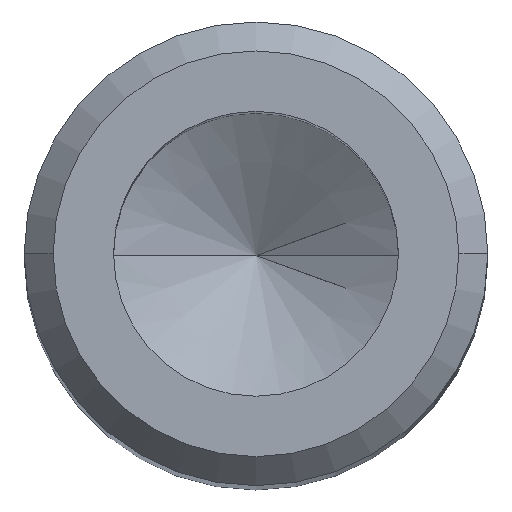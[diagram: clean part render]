
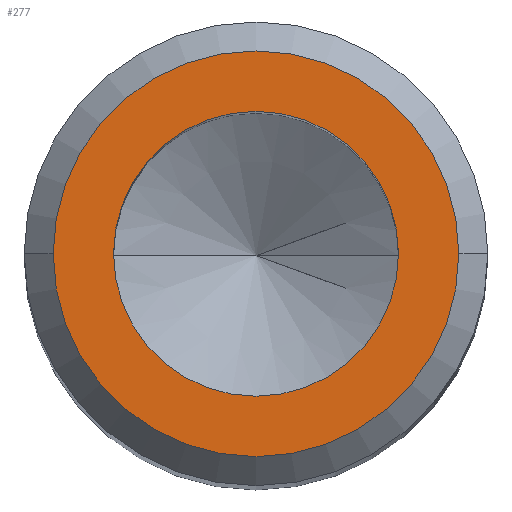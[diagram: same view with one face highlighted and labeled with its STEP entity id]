
A CAD part, top view. The second image highlights one B-rep face of the part: STEP entity #277.
In plain terms, the highlighted planar face has unit normal (0, 0, 1).
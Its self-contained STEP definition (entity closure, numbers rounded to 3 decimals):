
#8 = DIRECTION ( 'NONE',  ( 0., 0., 1. ) ) ;
#10 = DIRECTION ( 'NONE',  ( 0., 0., 1. ) ) ;
#13 = CIRCLE ( 'NONE', #187, 2.458 ) ;
#35 = CARTESIAN_POINT ( 'NONE',  ( -3.5, 0., 44. ) ) ;
#77 = DIRECTION ( 'NONE',  ( 1., 0., 0. ) ) ;
#80 = CIRCLE ( 'NONE', #508, 3.5 ) ;
#87 = ORIENTED_EDGE ( 'NONE', *, *, #396, .F. ) ;
#90 = DIRECTION ( 'NONE',  ( 0., 0., 1. ) ) ;
#95 = DIRECTION ( 'NONE',  ( 1., 0., 0. ) ) ;
#99 = ORIENTED_EDGE ( 'NONE', *, *, #476, .T. ) ;
#165 = DIRECTION ( 'NONE',  ( 1., 0., 0. ) ) ;
#176 = AXIS2_PLACEMENT_3D ( 'NONE', #332, #497, #77 ) ;
#187 = AXIS2_PLACEMENT_3D ( 'NONE', #500, #8, #165 ) ;
#201 = ORIENTED_EDGE ( 'NONE', *, *, #431, .T. ) ;
#206 = CARTESIAN_POINT ( 'NONE',  ( -2.458, 0., 44. ) ) ;
#210 = CARTESIAN_POINT ( 'NONE',  ( 0., 0., 44. ) ) ;
#224 = VERTEX_POINT ( 'NONE', #304 ) ;
#236 = CARTESIAN_POINT ( 'NONE',  ( 2.458, 0., 44. ) ) ;
#248 = AXIS2_PLACEMENT_3D ( 'NONE', #292, #299, #293 ) ;
#252 = FACE_OUTER_BOUND ( 'NONE', #342, .T. ) ;
#265 = CIRCLE ( 'NONE', #176, 3.5 ) ;
#276 = ORIENTED_EDGE ( 'NONE', *, *, #477, .F. ) ;
#277 = ADVANCED_FACE ( 'NONE', ( #252, #398 ), #334, .T. ) ;
#292 = CARTESIAN_POINT ( 'NONE',  ( 0., 0., 44. ) ) ;
#293 = DIRECTION ( 'NONE',  ( 1., 0., 0. ) ) ;
#299 = DIRECTION ( 'NONE',  ( 0., 0., 1. ) ) ;
#304 = CARTESIAN_POINT ( 'NONE',  ( 3.5, 0., 44. ) ) ;
#332 = CARTESIAN_POINT ( 'NONE',  ( 0., 0., 44. ) ) ;
#334 = PLANE ( 'NONE',  #344 ) ;
#342 = EDGE_LOOP ( 'NONE', ( #201, #99 ) ) ;
#344 = AXIS2_PLACEMENT_3D ( 'NONE', #422, #90, #95 ) ;
#396 = EDGE_CURVE ( 'NONE', #445, #442, #485, .T. ) ;
#398 = FACE_BOUND ( 'NONE', #483, .T. ) ;
#422 = CARTESIAN_POINT ( 'NONE',  ( 0., 0., 44. ) ) ;
#425 = DIRECTION ( 'NONE',  ( 1., 0., 0. ) ) ;
#431 = EDGE_CURVE ( 'NONE', #469, #224, #265, .T. ) ;
#442 = VERTEX_POINT ( 'NONE', #206 ) ;
#445 = VERTEX_POINT ( 'NONE', #236 ) ;
#469 = VERTEX_POINT ( 'NONE', #35 ) ;
#476 = EDGE_CURVE ( 'NONE', #224, #469, #80, .T. ) ;
#477 = EDGE_CURVE ( 'NONE', #442, #445, #13, .T. ) ;
#483 = EDGE_LOOP ( 'NONE', ( #87, #276 ) ) ;
#485 = CIRCLE ( 'NONE', #248, 2.458 ) ;
#497 = DIRECTION ( 'NONE',  ( 0., 0., 1. ) ) ;
#500 = CARTESIAN_POINT ( 'NONE',  ( 0., 0., 44. ) ) ;
#508 = AXIS2_PLACEMENT_3D ( 'NONE', #210, #10, #425 ) ;
